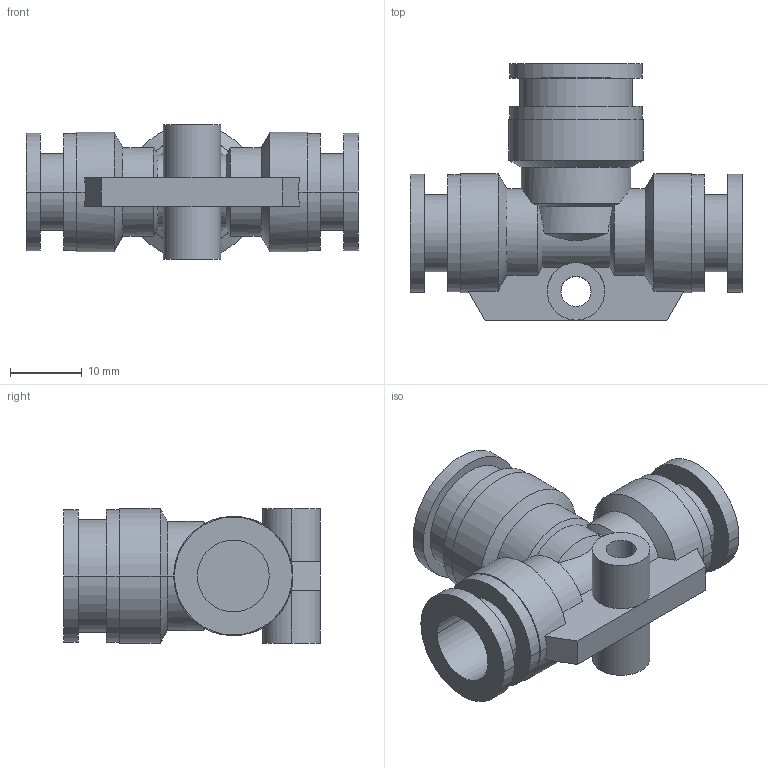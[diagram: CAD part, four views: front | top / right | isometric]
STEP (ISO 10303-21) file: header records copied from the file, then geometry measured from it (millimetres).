
FILE_DESCRIPTION( ( '' ), '1' );
FILE_NAME( 'G:/SMC狟婥/KQ2T10-12A.stp', '2023-03-07T03:27:27', ( '' ), ( '' ), ' ', ' ', ' ' );
FILE_SCHEMA( ( 'CONFIG_CONTROL_DESIGN' ) );
Length unit declared in the file: millimetre
Products named in the file (1): 1
Bounding box: 46.2 x 35.7 x 18.7 mm (x, y, z)
Volume: 7657 mm3; surface area: 7096 mm2
Topology: 1 solids, 1 shells, 84 faces, 198 edges, 128 vertices
Faces by surface type: cylinder 46, plane 24, cone 14
Entity records: 2686 total; most frequent: CARTESIAN_POINT 675, DIRECTION 436, ORIENTED_EDGE 396, EDGE_CURVE 198, AXIS2_PLACEMENT_3D 185, VERTEX_POINT 128, EDGE_LOOP 98, CIRCLE 96
